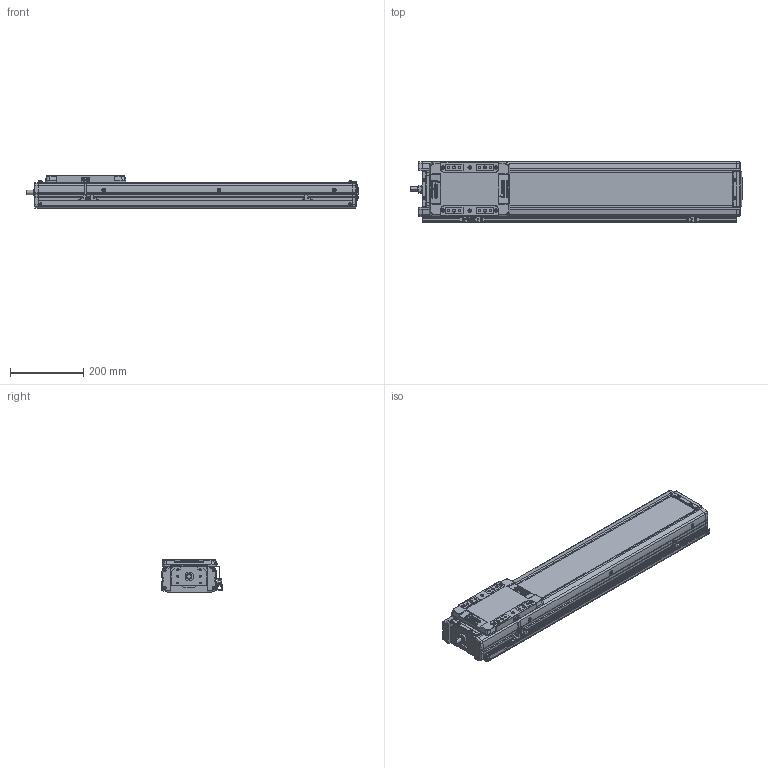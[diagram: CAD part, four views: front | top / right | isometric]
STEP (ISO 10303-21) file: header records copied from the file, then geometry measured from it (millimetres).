
FILE_DESCRIPTION(('STEP AP214'),'1');
FILE_NAME('Z:/Web/3D/SAN150/2013.04 (STP.)/SAN150ㅁㅁ-600+3SR.stp','2013-05-07T11:11:03',(' '),(' '),'Spatial InterOp 3D',' ',' ');
FILE_SCHEMA(('automotive_design'));
Length unit declared in the file: millimetre
Products named in the file (55): M3.0 x 6.0; SRL-16x17-360L; SGD-SAN150; EE-SX674; SBK-SX674-352; 스크루 : Round - M3.0 x 6.0; BHCS M4.0 x 10.0; SLBL-SAN150; SLCV-SAN150; FHCS M4.0 x 8.0; SFX-SAN150; RRCV-SAN150; FRBL-SAN150; Spacer; RN15; FRCV-SAN150; Screw 20; BASE-SAN150-000L ; SUS COVER; 스크루 : Round - M5.0 x 6.0
Bounding box: 908 x 166 x 90 mm (x, y, z)
Volume: 5114676.5 mm3; surface area: 1041773.2 mm2
Topology: 55 solids, 55 shells, 2582 faces, 6656 edges, 4281 vertices
Faces by surface type: plane 1368, cylinder 839, cone 270, sphere 72, bspline 21, torus 12
Entity records: 102433 total; most frequent: CARTESIAN_POINT 16364, DIRECTION 14038, ORIENTED_EDGE 13096, EDGE_CURVE 6548, AXIS2_PLACEMENT_3D 4966, VERTEX_POINT 4281, LINE 4106, VECTOR 4106
